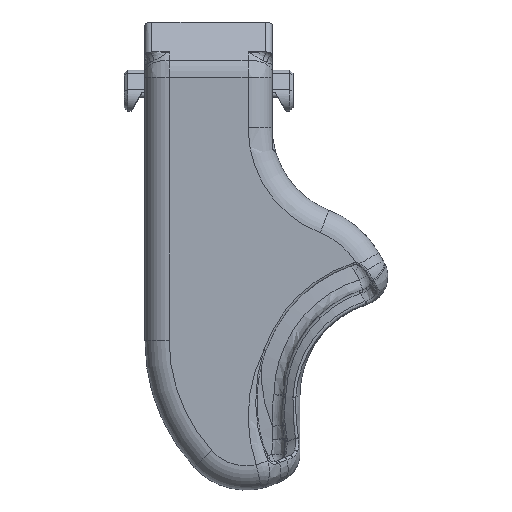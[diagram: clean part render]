
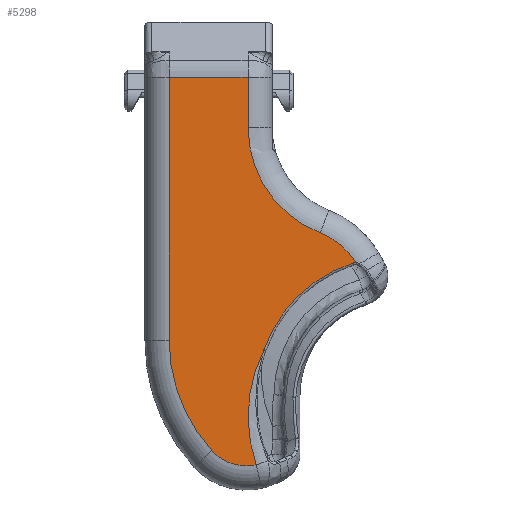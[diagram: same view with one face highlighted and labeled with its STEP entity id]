
A CAD part, front view. The second image highlights one B-rep face of the part: STEP entity #5298.
In plain terms, the highlighted planar face has unit normal (0, -1, 0).
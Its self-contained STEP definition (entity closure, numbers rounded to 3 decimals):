
#357=ELLIPSE('',#5877,2.673,1.388);
#645=PLANE('',#5875);
#936=FACE_OUTER_BOUND('',#1268,.T.);
#1268=EDGE_LOOP('',(#4686,#4687,#4688,#4689,#4690,#4691,#4692,#4693,#4694,
#4695));
#1348=LINE('',#7476,#1579);
#1364=LINE('',#8680,#1595);
#1368=LINE('',#8956,#1599);
#1579=VECTOR('',#6026,1.);
#1595=VECTOR('',#6140,1.);
#1599=VECTOR('',#6172,1.);
#1831=CIRCLE('',#5455,6.7);
#1832=CIRCLE('',#5458,23.7);
#1881=CIRCLE('',#5558,16.3);
#2048=CIRCLE('',#5863,10.7);
#2049=CIRCLE('',#5865,21.298);
#2055=CIRCLE('',#5876,20.122);
#2111=VERTEX_POINT('',#7468);
#2113=VERTEX_POINT('',#7474);
#2167=VERTEX_POINT('',#8673);
#2170=VERTEX_POINT('',#8678);
#2179=VERTEX_POINT('',#8947);
#2181=VERTEX_POINT('',#8951);
#2266=VERTEX_POINT('',#10296);
#2499=VERTEX_POINT('',#15902);
#2500=VERTEX_POINT('',#15918);
#2507=VERTEX_POINT('',#15989);
#2602=EDGE_CURVE('',#2111,#2113,#1348,.F.);
#2677=EDGE_CURVE('',#2167,#2170,#1364,.F.);
#2694=EDGE_CURVE('',#2179,#2181,#1831,.F.);
#2696=EDGE_CURVE('',#2170,#2111,#1368,.T.);
#2697=EDGE_CURVE('',#2113,#2179,#1832,.F.);
#2832=EDGE_CURVE('',#2266,#2167,#1881,.T.);
#3247=EDGE_CURVE('',#2499,#2266,#2048,.F.);
#3249=EDGE_CURVE('',#2181,#2500,#2049,.T.);
#3259=EDGE_CURVE('',#2507,#2500,#2055,.F.);
#3260=EDGE_CURVE('',#2499,#2507,#357,.F.);
#4686=ORIENTED_EDGE('',*,*,#3259,.F.);
#4687=ORIENTED_EDGE('',*,*,#3260,.F.);
#4688=ORIENTED_EDGE('',*,*,#3247,.T.);
#4689=ORIENTED_EDGE('',*,*,#2832,.T.);
#4690=ORIENTED_EDGE('',*,*,#2677,.T.);
#4691=ORIENTED_EDGE('',*,*,#2696,.T.);
#4692=ORIENTED_EDGE('',*,*,#2602,.T.);
#4693=ORIENTED_EDGE('',*,*,#2697,.T.);
#4694=ORIENTED_EDGE('',*,*,#2694,.T.);
#4695=ORIENTED_EDGE('',*,*,#3249,.T.);
#5298=ADVANCED_FACE('',(#936),#645,.F.);
#5455=AXIS2_PLACEMENT_3D('',#8953,#6167,#6168);
#5458=AXIS2_PLACEMENT_3D('',#8958,#6175,#6176);
#5558=AXIS2_PLACEMENT_3D('',#10297,#6429,#6430);
#5863=AXIS2_PLACEMENT_3D('',#15903,#7147,#7148);
#5865=AXIS2_PLACEMENT_3D('',#15919,#7151,#7152);
#5875=AXIS2_PLACEMENT_3D('',#15988,#7171,#7172);
#5876=AXIS2_PLACEMENT_3D('',#15990,#7173,#7174);
#5877=AXIS2_PLACEMENT_3D('',#15991,#7175,#7176);
#6026=DIRECTION('',(0.,0.,1.));
#6140=DIRECTION('',(0.,0.,-1.));
#6167=DIRECTION('center_axis',(0.,1.,0.));
#6168=DIRECTION('ref_axis',(0.,0.,-1.));
#6172=DIRECTION('',(-1.,0.,0.));
#6175=DIRECTION('center_axis',(0.,1.,0.));
#6176=DIRECTION('ref_axis',(0.,0.,-1.));
#6429=DIRECTION('center_axis',(0.,1.,0.));
#6430=DIRECTION('ref_axis',(0.,0.,-1.));
#7147=DIRECTION('center_axis',(0.,1.,0.));
#7148=DIRECTION('ref_axis',(0.,0.,-1.));
#7151=DIRECTION('center_axis',(0.,1.,0.));
#7152=DIRECTION('ref_axis',(0.,0.,-1.));
#7171=DIRECTION('center_axis',(0.,1.,0.));
#7172=DIRECTION('ref_axis',(-1.,0.,0.));
#7173=DIRECTION('center_axis',(0.,1.,0.));
#7174=DIRECTION('ref_axis',(0.,0.,-1.));
#7175=DIRECTION('center_axis',(0.,1.,0.));
#7176=DIRECTION('ref_axis',(-0.495,0.,0.869));
#7468=CARTESIAN_POINT('',(-5.7,-24.,14.99));
#7474=CARTESIAN_POINT('',(-5.7,-24.,-23.));
#7476=CARTESIAN_POINT('',(-5.7,-24.,-11.558));
#8673=CARTESIAN_POINT('',(5.7,-24.,7.729));
#8678=CARTESIAN_POINT('',(5.7,-24.,14.99));
#8680=CARTESIAN_POINT('',(5.7,-24.,-14.538));
#8947=CARTESIAN_POINT('',(0.469,-24.,-38.949));
#8951=CARTESIAN_POINT('',(6.879,-24.,-40.981));
#8953=CARTESIAN_POINT('Origin',(5.425,-24.,-34.44));
#8956=CARTESIAN_POINT('',(8.344,-24.,14.99));
#8958=CARTESIAN_POINT('Origin',(18.,-24.,-23.));
#10296=CARTESIAN_POINT('',(16.112,-24.,-7.47));
#10297=CARTESIAN_POINT('Origin',(22.,-24.,7.729));
#15902=CARTESIAN_POINT('',(21.331,-24.,-11.792));
#15903=CARTESIAN_POINT('Origin',(12.247,-24.,-17.448));
#15918=CARTESIAN_POINT('',(7.997,-24.,-24.383));
#15919=CARTESIAN_POINT('Origin',(27.,-24.,-34.));
#15988=CARTESIAN_POINT('Origin',(0.,-24.,0.));
#15989=CARTESIAN_POINT('',(20.921,-24.,-11.818));
#15990=CARTESIAN_POINT('Origin',(27.,-24.,-31.));
#15991=CARTESIAN_POINT('Origin',(22.103,-24.,-14.202));
